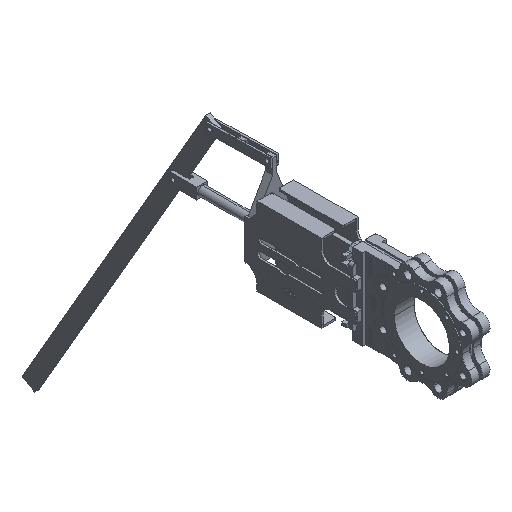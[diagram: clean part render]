
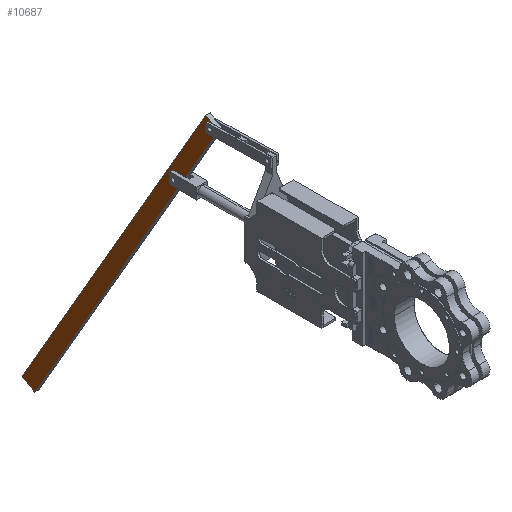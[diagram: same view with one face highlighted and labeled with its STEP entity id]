
A CAD part, isometric view. The second image highlights one B-rep face of the part: STEP entity #10687.
In plain terms, the highlighted planar face has unit normal (-1, 0, 0).
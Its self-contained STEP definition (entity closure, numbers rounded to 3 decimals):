
#171 = EDGE_CURVE ( 'NONE', #26123, #31811, #36350, .T. ) ;
#960 = CIRCLE ( 'NONE', #34190, 5.25 ) ;
#1477 = DIRECTION ( 'NONE',  ( -1., 0., 0. ) ) ;
#1858 = ORIENTED_EDGE ( 'NONE', *, *, #16169, .F. ) ;
#2677 = CARTESIAN_POINT ( 'NONE',  ( -3.5, 517.23, 262.246 ) ) ;
#3405 = DIRECTION ( 'NONE',  ( 0., -0.866, -0.5 ) ) ;
#3867 = VECTOR ( 'NONE', #16438, 1000. ) ;
#3892 = CARTESIAN_POINT ( 'NONE',  ( -3.5, 1008.423, -588.065 ) ) ;
#5638 = CARTESIAN_POINT ( 'NONE',  ( -3.5, 1043.059, -568.057 ) ) ;
#5678 = VECTOR ( 'NONE', #19270, 1000. ) ;
#6250 = VERTEX_POINT ( 'NONE', #16466 ) ;
#6383 = ORIENTED_EDGE ( 'NONE', *, *, #12719, .T. ) ;
#8285 = CARTESIAN_POINT ( 'NONE',  ( -3.5, 524.239, 287.097 ) ) ;
#8571 = VERTEX_POINT ( 'NONE', #5638 ) ;
#9918 = CARTESIAN_POINT ( 'NONE',  ( -3.5, 1008.423, -588.065 ) ) ;
#10198 = VERTEX_POINT ( 'NONE', #8285 ) ;
#10222 = VERTEX_POINT ( 'NONE', #26505 ) ;
#10282 = AXIS2_PLACEMENT_3D ( 'NONE', #30455, #24145, #36219 ) ;
#10324 = VECTOR ( 'NONE', #17176, 1000. ) ;
#10550 = EDGE_CURVE ( 'NONE', #6250, #8571, #39312, .T. ) ;
#10687 = ADVANCED_FACE ( 'NONE', ( #25921, #17761 ), #35808, .F. ) ;
#11061 = LINE ( 'NONE', #23242, #14405 ) ;
#11185 = DIRECTION ( 'NONE',  ( 0., -1., 0.022 ) ) ;
#11308 = DIRECTION ( 'NONE',  ( -1., 0., 0. ) ) ;
#11504 = LINE ( 'NONE', #16569, #3867 ) ;
#12037 = VERTEX_POINT ( 'NONE', #3892 ) ;
#12534 = VECTOR ( 'NONE', #3405, 1000. ) ;
#12719 = EDGE_CURVE ( 'NONE', #10198, #6250, #13770, .T. ) ;
#13018 = ORIENTED_EDGE ( 'NONE', *, *, #10550, .T. ) ;
#13201 = ORIENTED_EDGE ( 'NONE', *, *, #24213, .F. ) ;
#13505 = ORIENTED_EDGE ( 'NONE', *, *, #34973, .T. ) ;
#13647 = VERTEX_POINT ( 'NONE', #2677 ) ;
#13770 = LINE ( 'NONE', #21190, #36791 ) ;
#14181 = LINE ( 'NONE', #26168, #10324 ) ;
#14405 = VECTOR ( 'NONE', #11185, 1000. ) ;
#15566 = CARTESIAN_POINT ( 'NONE',  ( -3.5, 537.736, 286.798 ) ) ;
#16169 = EDGE_CURVE ( 'NONE', #31811, #13647, #14181, .T. ) ;
#16438 = DIRECTION ( 'NONE',  ( 0., -0.5, 0.866 ) ) ;
#16466 = CARTESIAN_POINT ( 'NONE',  ( -3.5, 542.857, 297.852 ) ) ;
#16569 = CARTESIAN_POINT ( 'NONE',  ( -3.5, 508.22, 277.843 ) ) ;
#16946 = CARTESIAN_POINT ( 'NONE',  ( -3.5, 622.5, 104.75 ) ) ;
#17096 = CARTESIAN_POINT ( 'NONE',  ( -3.5, 622.5, 110. ) ) ;
#17176 = DIRECTION ( 'NONE',  ( 0., -1., 0.022 ) ) ;
#17761 = FACE_OUTER_BOUND ( 'NONE', #26584, .T. ) ;
#19270 = DIRECTION ( 'NONE',  ( 0., -0.022, -1. ) ) ;
#21099 = VECTOR ( 'NONE', #26853, 1000. ) ;
#21190 = CARTESIAN_POINT ( 'NONE',  ( -3.5, 542.857, 297.852 ) ) ;
#21631 = LINE ( 'NONE', #9918, #12534 ) ;
#22827 = EDGE_CURVE ( 'NONE', #8571, #12037, #21631, .T. ) ;
#22990 = CARTESIAN_POINT ( 'NONE',  ( -3.5, 537.182, 261.804 ) ) ;
#23242 = CARTESIAN_POINT ( 'NONE',  ( -3.5, 360.779, 290.718 ) ) ;
#23649 = DIRECTION ( 'NONE',  ( 0., 0., -1. ) ) ;
#24145 = DIRECTION ( 'NONE',  ( 1., 0., 0. ) ) ;
#24213 = EDGE_CURVE ( 'NONE', #10222, #26979, #960, .T. ) ;
#25576 = AXIS2_PLACEMENT_3D ( 'NONE', #17096, #1477, #25963 ) ;
#25913 = ORIENTED_EDGE ( 'NONE', *, *, #171, .F. ) ;
#25921 = FACE_BOUND ( 'NONE', #29821, .T. ) ;
#25963 = DIRECTION ( 'NONE',  ( 0., 0., -1. ) ) ;
#26123 = VERTEX_POINT ( 'NONE', #15566 ) ;
#26168 = CARTESIAN_POINT ( 'NONE',  ( -3.5, 537.182, 261.804 ) ) ;
#26505 = CARTESIAN_POINT ( 'NONE',  ( -3.5, 622.5, 115.25 ) ) ;
#26584 = EDGE_LOOP ( 'NONE', ( #33143, #1858, #25913, #13505, #6383, #13018, #27568 ) ) ;
#26853 = DIRECTION ( 'NONE',  ( 0., 0.5, -0.866 ) ) ;
#26979 = VERTEX_POINT ( 'NONE', #16946 ) ;
#27568 = ORIENTED_EDGE ( 'NONE', *, *, #22827, .T. ) ;
#29784 = CIRCLE ( 'NONE', #25576, 5.25 ) ;
#29821 = EDGE_LOOP ( 'NONE', ( #35856, #13201 ) ) ;
#30337 = EDGE_CURVE ( 'NONE', #12037, #13647, #11504, .T. ) ;
#30455 = CARTESIAN_POINT ( 'NONE',  ( -3.5, 0., 0. ) ) ;
#31811 = VERTEX_POINT ( 'NONE', #22990 ) ;
#33143 = ORIENTED_EDGE ( 'NONE', *, *, #30337, .T. ) ;
#34190 = AXIS2_PLACEMENT_3D ( 'NONE', #38752, #11308, #23649 ) ;
#34557 = CARTESIAN_POINT ( 'NONE',  ( -3.5, 537.736, 286.798 ) ) ;
#34619 = EDGE_CURVE ( 'NONE', #26979, #10222, #29784, .T. ) ;
#34973 = EDGE_CURVE ( 'NONE', #26123, #10198, #11061, .T. ) ;
#35687 = CARTESIAN_POINT ( 'NONE',  ( -3.5, 1043.059, -568.057 ) ) ;
#35808 = PLANE ( 'NONE',  #10282 ) ;
#35856 = ORIENTED_EDGE ( 'NONE', *, *, #34619, .F. ) ;
#36219 = DIRECTION ( 'NONE',  ( 0., 0., -1. ) ) ;
#36350 = LINE ( 'NONE', #34557, #5678 ) ;
#36618 = DIRECTION ( 'NONE',  ( 0., 0.866, 0.5 ) ) ;
#36791 = VECTOR ( 'NONE', #36618, 1000. ) ;
#38752 = CARTESIAN_POINT ( 'NONE',  ( -3.5, 622.5, 110. ) ) ;
#39312 = LINE ( 'NONE', #35687, #21099 ) ;
